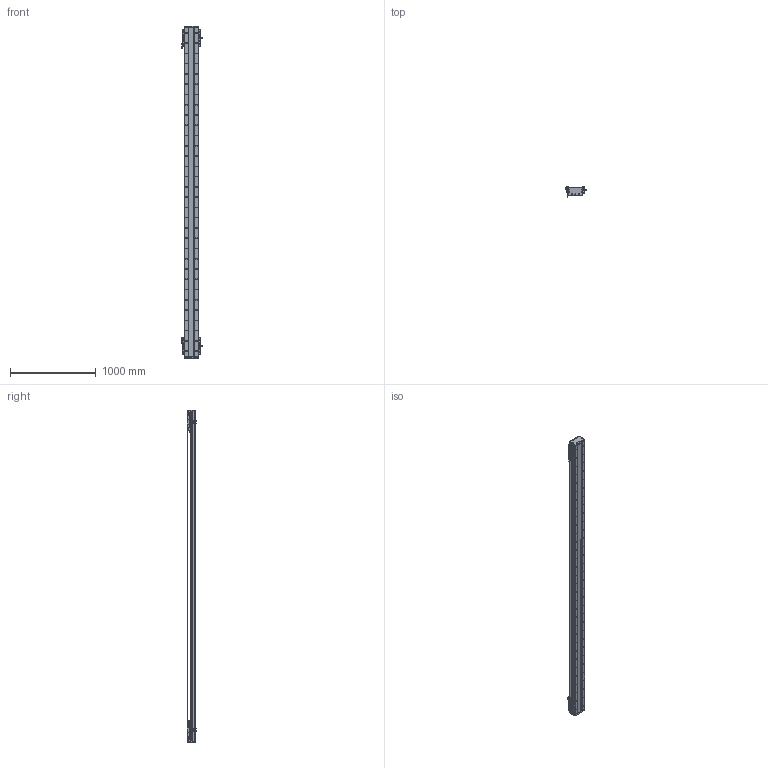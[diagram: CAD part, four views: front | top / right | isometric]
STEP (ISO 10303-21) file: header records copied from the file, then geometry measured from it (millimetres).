
FILE_DESCRIPTION (( 'STEP AP203' ), '1' );
FILE_NAME ('DA-C165-2-C2-T3380-C010-0.2 直线电机.STEP', '2023-05-11T08:36:02', ( '微软用户' ), ( '微软中国' ), 'SwSTEP 2.0', 'SolidWorks 2019', '' );
FILE_SCHEMA (( 'CONFIG_CONTROL_DESIGN' ));
Length unit declared in the file: millimetre
Products named in the file (22): 葩璃 CKM01-W075-TRL^DA-C165-C2-T-C010-0.2-N 眻盄萇儂; 复件 DA165-GD-1860-002-00 钢带盖板^复件 CU165钢带组件_DA-C165-C2-T-C010-0.2-N 直线电机; 复件 DKW-HXJ-JY-00 缓冲橡胶^DA-C165-C2-T-C010-0.2-N 直线电机; 葩璃 DA95-GT-T-00^IU-CU165-L 菁釱絳寢_T; 复件 66338-1000-006-00 光电感应块^DA-C165-C2-T-C010-0.2-N 直线电机; DA-C165-2-C2-T3380-C010-0.2 眻盄萇儂; 复件 CKM02-W075-C1C2-TP-3.0 一体电机-C2^DA-C165-C2-T-C010-0.2-N 直线电机; 复件 DA165-GD-DG-H-00 端盖^复件 CU165钢带组件_DA-C165-C2-T-C010-0.2-N 直线电机; 复件 DA165-GDLK-00 钢带拉块^复件 CU165钢带组件_DA-C165-C2-T-C010-0.2-N 直线电机; 复件 六角薄螺母 M3^DA-C165-C2-T-C010-0.2-N 直线电机_GB_FASTENER_NUT_STNAB M3-C; 复件 DA126-GYP-ZJ-00 中间光电感应片^DA-C165-C2-T-C010-0.2-N 直线电机; 珨极趙賑雄怢啣wf-C2; IU-CU165-L-00 菁釱_L3840; IU-CU165-L 菁釱絳寢; 复件 DMA-010-0.2 读数头^DA-C165-C2-T-C010-0.2-N 直线电机; 复件 DA165-GDYK-00 钢带压块^复件 CU165钢带组件_DA-C165-C2-T-C010-0.2-N 直线电机; 复件 DA165-GYP-00 光电感应片^DA-C165-C2-T-C010-0.2-N 直线电机; 复件 XD-U-02L 磁栅尺^DA-C165-C2-T-C010-0.2-N 直线电机_T; 葩璃 PM-T45^DA-C165-C2-T-C010-0.2-N 眻盄萇儂; 复件 CU165钢带组件^DA-C165-C2-T-C010-0.2-N 直线电机; 复件 DA95-HXJ-00 缓冲橡胶^DA-C165-C2-T-C010-0.2-N 直线电机; 葩璃 PM-Y45^DA-C165-C2-T-C010-0.2-N 眻盄萇儂
Assembly tree (43 placements, depth 3):
  DA-C165-2-C2-T3380-C010-0.2 眻盄萇儂
    IU-CU165-L 菁釱絳寢
      IU-CU165-L-00 菁釱_L3840
      葩璃 DA95-GT-T-00^IU-CU165-L 菁釱絳寢_T  x4
    复件 XD-U-02L 磁栅尺^DA-C165-C2-T-C010-0.2-N 直线电机_T
    葩璃 PM-T45^DA-C165-C2-T-C010-0.2-N 眻盄萇儂  x4
    葩璃 CKM01-W075-TRL^DA-C165-C2-T-C010-0.2-N 眻盄萇儂
    复件 CU165钢带组件^DA-C165-C2-T-C010-0.2-N 直线电机
      复件 DA165-GD-DG-H-00 端盖^复件 CU165钢带组件_DA-C165-C2-T-C010-0.2-N 直线电机  x2
      复件 DA165-GDYK-00 钢带压块^复件 CU165钢带组件_DA-C165-C2-T-C010-0.2-N 直线电机  x2
      复件 DA165-GD-1860-002-00 钢带盖板^复件 CU165钢带组件_DA-C165-C2-T-C010-0.2-N 直线电机
      复件 DA165-GDLK-00 钢带拉块^复件 CU165钢带组件_DA-C165-C2-T-C010-0.2-N 直线电机  x2
    复件 DA95-HXJ-00 缓冲橡胶^DA-C165-C2-T-C010-0.2-N 直线电机  x4
    复件 CKM02-W075-C1C2-TP-3.0 一体电机-C2^DA-C165-C2-T-C010-0.2-N 直线电机  x2
    复件 DMA-010-0.2 读数头^DA-C165-C2-T-C010-0.2-N 直线电机  x2
    复件 DA165-GYP-00 光电感应片^DA-C165-C2-T-C010-0.2-N 直线电机  x2
    复件 66338-1000-006-00 光电感应块^DA-C165-C2-T-C010-0.2-N 直线电机
    葩璃 PM-Y45^DA-C165-C2-T-C010-0.2-N 眻盄萇儂
    复件 DA126-GYP-ZJ-00 中间光电感应片^DA-C165-C2-T-C010-0.2-N 直线电机
    复件 DKW-HXJ-JY-00 缓冲橡胶^DA-C165-C2-T-C010-0.2-N 直线电机  x2
    复件 六角薄螺母 M3^DA-C165-C2-T-C010-0.2-N 直线电机_GB_FASTENER_NUT_STNAB M3-C  x6
    珨极趙賑雄怢啣wf-C2  x2
Bounding box: 247.2 x 111.45 x 3880 mm (x, y, z)
Volume: 22185398.8 mm3; surface area: 6625592.2 mm2
Topology: 119 solids, 119 shells, 6275 faces, 18214 edges, 11590 vertices
Faces by surface type: cylinder 3636, plane 1847, cone 704, torus 80, sphere 8
Entity records: 167292 total; most frequent: CARTESIAN_POINT 47547, ORIENTED_EDGE 25372, DIRECTION 23746, EDGE_CURVE 12686, AXIS2_PLACEMENT_3D 9088, VERTEX_POINT 8327, EDGE_LOOP 5705, LINE 5570
